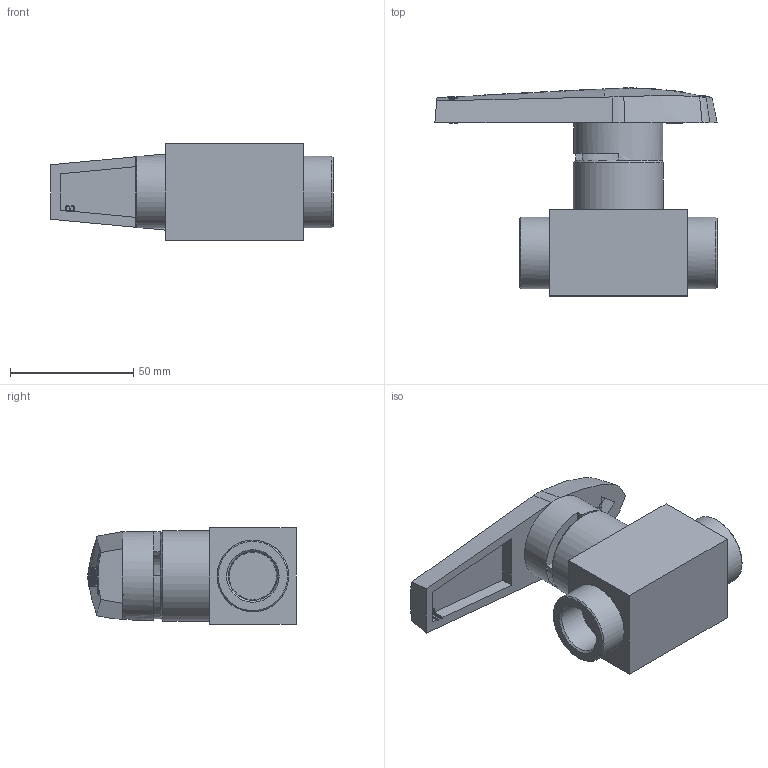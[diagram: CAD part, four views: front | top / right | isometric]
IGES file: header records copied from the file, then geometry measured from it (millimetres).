
Global section: file name: SBV120H4-F8N-S316; native system: Autodesk Inventor 2016; preprocessor: unknown; author: 이승민,,11,0; organization: 20161215.102320; date: 20161216.191544; units: millimetre
Bounding box: 114.3 x 84.28 x 39 mm (x, y, z)
Volume: 134601.9 mm3; surface area: 31076.9 mm2
Topology: 2 solids, 2 shells, 407 faces, 1166 edges, 778 vertices
Faces by surface type: bspline 407
